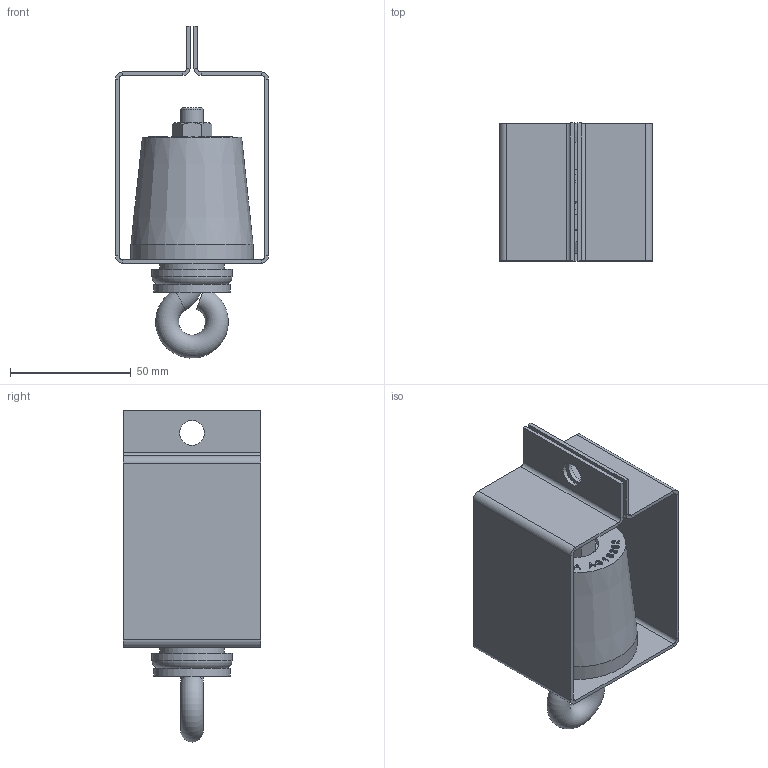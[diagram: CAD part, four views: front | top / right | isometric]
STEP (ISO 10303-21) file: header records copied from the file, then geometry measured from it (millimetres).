
FILE_DESCRIPTION(/* description */ (''),/* implementation_level */ '2;1');
FILE_NAME(/* name */ 'C:\001_Work\Designs\HANGER BOXES\ARCHITECTURAL CEILING HANGERS\WHD-A\WHD-A.stp',/* time_stamp */ '2016-01-28T11:30:00-05:00',/* author */ ('rramoutar'),/* organization */ ('Mason Industries Inc.'),/* preprocessor_version */ 'ST-DEVELOPER v15.6',/* originating_system */ 'Autodesk Inventor 2015',/* authorisation */ '');
FILE_SCHEMA (('CONFIG_CONTROL_DESIGN'));
Length unit declared in the file: inch
Products named in the file (1): A-31982-2 WHD-A HANGER ASSEMBLY
Bounding box: 63.5 x 57.15 x 137.75 mm (x, y, z)
Volume: 125515.6 mm3; surface area: 61446.9 mm2
Topology: 6 solids, 6 shells, 368 faces, 911 edges, 586 vertices
Faces by surface type: plane 203, bspline 119, cylinder 27, cone 16, torus 3
Full cylindrical faces by diameter (mm): 7.798 x1, 9.525 x2, 10.319 x3, 12.7 x1, 19.05 x1, 26.987 x2, 31.75 x1, 33.337 x1, 38.1 x2, 50.8 x1
Entity records: 12035 total; most frequent: CARTESIAN_POINT 3814, ORIENTED_EDGE 1772, DIRECTION 1197, EDGE_CURVE 886, VERTEX_POINT 583, LINE 551, VECTOR 551, EDGE_LOOP 435
